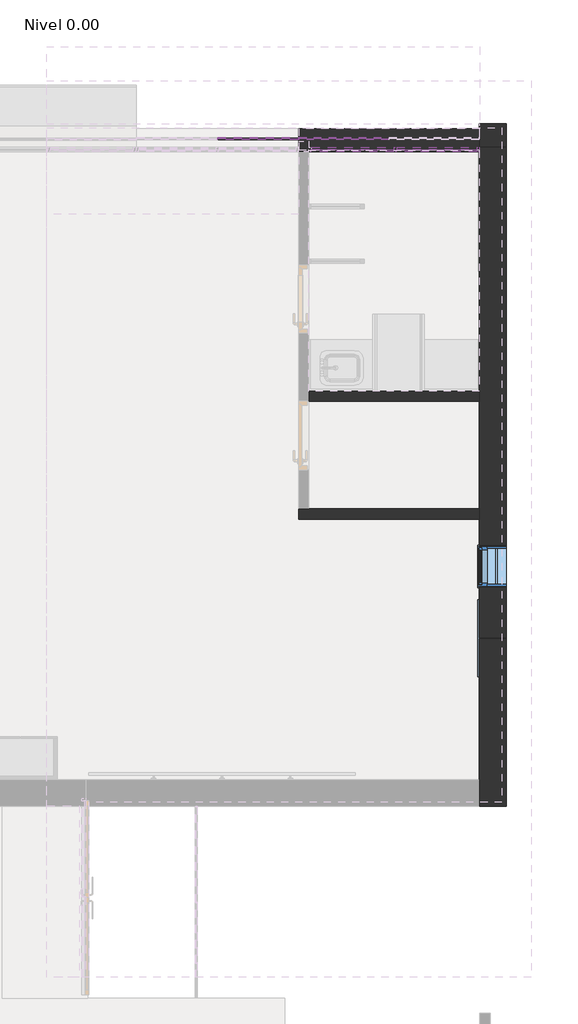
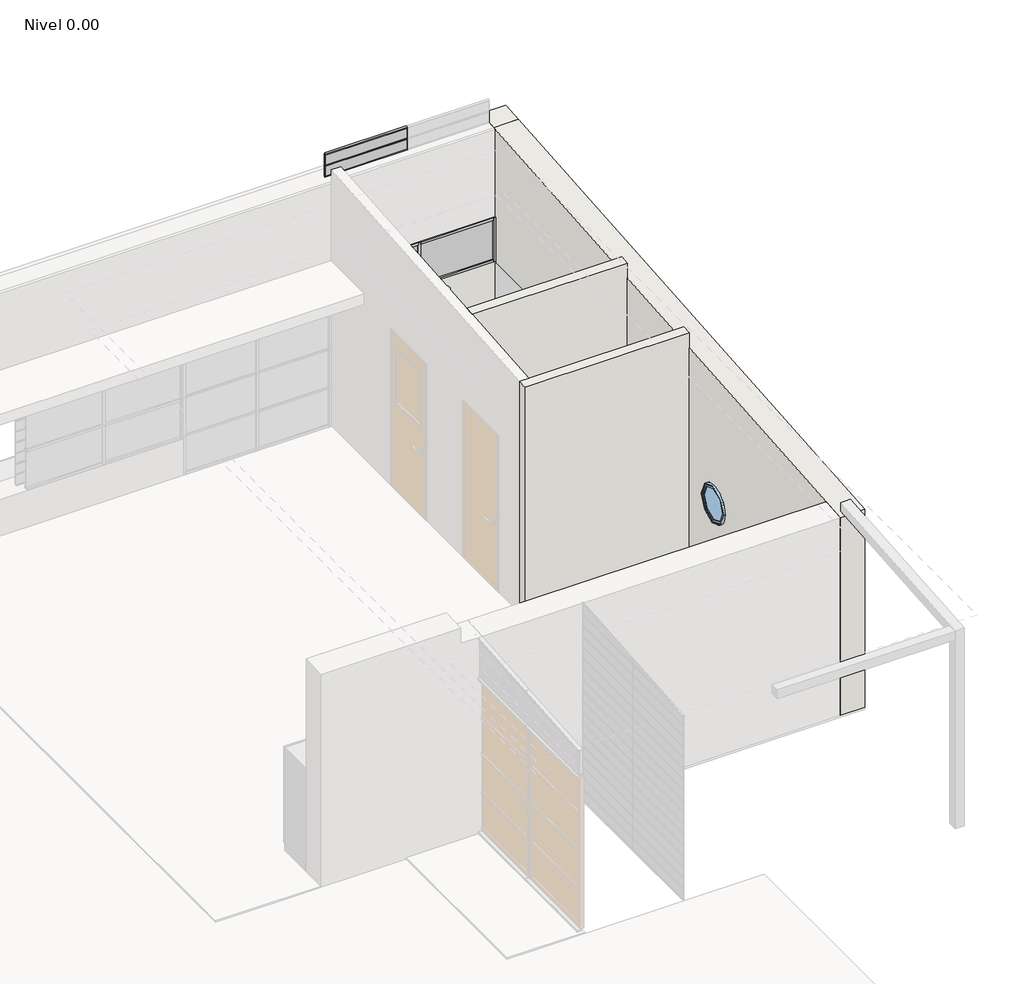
# One storey, part 25 of 27: 77 members, 37 plates, 5 walls, 2 windows.
"""IFC4 building model written with IfcOpenShell, lengths in millimetres."""

from ifc_helpers import new_model, si_unit, frame, origin, place, context, project, spatial, polyline, circle_curve, outline, extrude, faceted_brep, transform, mapped, element, save
from ifc_brep_helpers import plane_surface, revolved_surface, advanced_brep
from components import circular_mullion_a09c3154, circular_mullion_1ffed5d8, l_corner_mullion_0b7e8c85, l_corner_mullion_90f03896, l_corner_mullion_c65f2da1, rectangular_mullion_b27f267a, rectangular_mullion_f4ea7fa0, rectangular_mullion_4732226b, rectangular_mullion_bccfeea3, rectangular_mullion_38782a9a, rectangular_mullion_abfcaab6, system_panel_c5bd44f4, system_panel_2c501d8c, system_panel_d7da2c0c, system_panel_921cbf43, system_panel_f97c738b, system_panel_f5a5ada1, system_panel_glazed_9e0da50f, system_panel_glazed_0c34ed68, window_1ec73767, window_5c5b8207

model = new_model("IFC4")

# Units and contexts
model_context = context("Model", 3, world=origin())
ifc_project = project(units=[si_unit("LENGTHUNIT", "METRE", prefix="MILLI")], contexts=[model_context])

# Site, building, storey
site = spatial("IfcSite", under=ifc_project)
building = spatial("IfcBuilding", under=site)
storey = spatial("IfcBuildingStorey", under=building, Name="Nivel 0.00", Elevation=0.0)

# Members
placement = place(None, origin())
circular_mullion_shape = circular_mullion_a09c3154(model_context)
element("IfcMember", 1, ObjectType="Circular Mullion : ARQ_HERR_16mm", at=placement, inside=storey, context=model_context, shape_type="MappedRepresentation", body=[
    mapped(circular_mullion_shape, transform((15479.1953298, 6959.43912, 150.0), x_axis=(0.0, 0.0, 1.0), y_axis=(0.0, -1.0, 0.0), z_axis=(1.0, 0.0, 0.0))),
])
element("IfcMember", 2, ObjectType="Circular Mullion : ARQ_HERR_16mm", at=placement, inside=storey, context=model_context, shape_type="MappedRepresentation", body=[
    mapped(circular_mullion_shape, transform((15479.1953298, 6959.43912, 300.0), x_axis=(0.0, 0.0, 1.0), y_axis=(0.0, -1.0, 0.0), z_axis=(1.0, 0.0, 0.0))),
])
element("IfcMember", 3, ObjectType="Circular Mullion : ARQ_HERR_16mm", at=placement, inside=storey, context=model_context, shape_type="MappedRepresentation", body=[
    mapped(circular_mullion_shape, transform((15479.1953298, 6959.43912, 450.0), x_axis=(0.0, 0.0, 1.0), y_axis=(0.0, -1.0, 0.0), z_axis=(1.0, 0.0, 0.0))),
])
element("IfcMember", 4, ObjectType="Circular Mullion : ARQ_HERR_16mm", at=placement, inside=storey, context=model_context, shape_type="MappedRepresentation", body=[
    mapped(circular_mullion_shape, transform((15479.1953298, 6959.43912, 600.0), x_axis=(0.0, 0.0, 1.0), y_axis=(0.0, -1.0, 0.0), z_axis=(1.0, 0.0, 0.0))),
])
element("IfcMember", 5, ObjectType="Circular Mullion : ARQ_HERR_16mm", at=placement, inside=storey, context=model_context, shape_type="MappedRepresentation", body=[
    mapped(circular_mullion_shape, transform((15479.1953298, 6959.43912, 750.0), x_axis=(0.0, 0.0, 1.0), y_axis=(0.0, -1.0, 0.0), z_axis=(1.0, 0.0, 0.0))),
])
element("IfcMember", 6, ObjectType="Circular Mullion : ARQ_HERR_16mm", at=placement, inside=storey, context=model_context, shape_type="MappedRepresentation", body=[
    mapped(circular_mullion_shape, transform((15479.1953298, 6959.43912, 900.0), x_axis=(0.0, 0.0, 1.0), y_axis=(0.0, -1.0, 0.0), z_axis=(1.0, 0.0, 0.0))),
])
element("IfcMember", 7, ObjectType="Circular Mullion : ARQ_HERR_16mm", at=placement, inside=storey, context=model_context, shape_type="MappedRepresentation", body=[
    mapped(circular_mullion_shape, transform((15479.1953298, 6959.43912, 1050.0), x_axis=(0.0, 0.0, 1.0), y_axis=(0.0, -1.0, 0.0), z_axis=(1.0, 0.0, 0.0))),
])
element("IfcMember", 8, ObjectType="Circular Mullion : ARQ_HERR_16mm", at=placement, inside=storey, context=model_context, shape_type="MappedRepresentation", body=[
    mapped(circular_mullion_shape, transform((15479.1953298, 6959.43912, 1200.0), x_axis=(0.0, 0.0, 1.0), y_axis=(0.0, -1.0, 0.0), z_axis=(1.0, 0.0, 0.0))),
])
element("IfcMember", 9, ObjectType="Circular Mullion : ARQ_HERR_16mm", at=placement, inside=storey, context=model_context, shape_type="MappedRepresentation", body=[
    mapped(circular_mullion_shape, transform((15479.1953298, 6959.43912, 1350.0), x_axis=(0.0, 0.0, 1.0), y_axis=(0.0, -1.0, 0.0), z_axis=(1.0, 0.0, 0.0))),
])
element("IfcMember", 10, ObjectType="Circular Mullion : ARQ_HERR_16mm", at=placement, inside=storey, context=model_context, shape_type="MappedRepresentation", body=[
    mapped(circular_mullion_shape, transform((15479.1953298, 6959.43912, 1500.0), x_axis=(0.0, 0.0, 1.0), y_axis=(0.0, -1.0, 0.0), z_axis=(1.0, 0.0, 0.0))),
])
element("IfcMember", 11, ObjectType="Circular Mullion : ARQ_HERR_16mm", at=placement, inside=storey, context=model_context, shape_type="MappedRepresentation", body=[
    mapped(circular_mullion_shape, transform((15479.1953298, 6959.43912, 1650.0), x_axis=(0.0, 0.0, 1.0), y_axis=(0.0, -1.0, 0.0), z_axis=(1.0, 0.0, 0.0))),
])
element("IfcMember", 12, ObjectType="Circular Mullion : ARQ_HERR_16mm", at=placement, inside=storey, context=model_context, shape_type="MappedRepresentation", body=[
    mapped(circular_mullion_shape, transform((15479.1953298, 6959.43912, 1800.0), x_axis=(0.0, 0.0, 1.0), y_axis=(0.0, -1.0, 0.0), z_axis=(1.0, 0.0, 0.0))),
])
element("IfcMember", 13, ObjectType="Circular Mullion : ARQ_HERR_16mm", at=placement, inside=storey, context=model_context, shape_type="MappedRepresentation", body=[
    mapped(circular_mullion_shape, transform((15479.1953298, 6959.43912, 1950.0), x_axis=(0.0, 0.0, 1.0), y_axis=(0.0, -1.0, 0.0), z_axis=(1.0, 0.0, 0.0))),
])
circular_mullion_2_shape = circular_mullion_1ffed5d8(model_context)
element("IfcMember", 14, ObjectType="Circular Mullion : ARQ_HERR_16mm", at=placement, inside=storey, context=model_context, shape_type="MappedRepresentation", body=[
    mapped(circular_mullion_2_shape, transform((16541.4453113, 6959.43912, 1650.0), x_axis=(0.0, 0.0, 1.0), y_axis=(0.0, -1.0, 0.0), z_axis=(1.0, 0.0, 0.0))),
])
element("IfcMember", 15, ObjectType="Circular Mullion : ARQ_HERR_16mm", at=placement, inside=storey, context=model_context, shape_type="MappedRepresentation", body=[
    mapped(circular_mullion_2_shape, transform((16541.4453113, 6959.43912, 1800.0), x_axis=(0.0, 0.0, 1.0), y_axis=(0.0, -1.0, 0.0), z_axis=(1.0, 0.0, 0.0))),
])
element("IfcMember", 16, ObjectType="Circular Mullion : ARQ_HERR_16mm", at=placement, inside=storey, context=model_context, shape_type="MappedRepresentation", body=[
    mapped(circular_mullion_2_shape, transform((16541.4453113, 6959.43912, 1950.0), x_axis=(0.0, 0.0, 1.0), y_axis=(0.0, -1.0, 0.0), z_axis=(1.0, 0.0, 0.0))),
])
element("IfcMember", 17, ObjectType="Circular Mullion : ARQ_HERR_16mm", at=placement, inside=storey, context=model_context, shape_type="MappedRepresentation", body=[
    mapped(circular_mullion_2_shape, transform((16541.4453113, 6959.43912, 2100.0), x_axis=(0.0, 0.0, 1.0), y_axis=(0.0, -1.0, 0.0), z_axis=(1.0, 0.0, 0.0))),
])
element("IfcMember", 18, ObjectType="Circular Mullion : ARQ_HERR_16mm", at=placement, inside=storey, context=model_context, shape_type="MappedRepresentation", body=[
    mapped(circular_mullion_2_shape, transform((16541.4453113, 6959.43912, 2250.0), x_axis=(0.0, 0.0, 1.0), y_axis=(0.0, -1.0, 0.0), z_axis=(1.0, 0.0, 0.0))),
])
element("IfcMember", 19, ObjectType="Circular Mullion : ARQ_HERR_16mm", at=placement, inside=storey, context=model_context, shape_type="MappedRepresentation", body=[
    mapped(circular_mullion_2_shape, transform((16541.4453113, 6959.43912, 2400.0), x_axis=(0.0, 0.0, 1.0), y_axis=(0.0, -1.0, 0.0), z_axis=(1.0, 0.0, 0.0))),
])
element("IfcMember", 20, ObjectType="Circular Mullion : ARQ_HERR_16mm", at=placement, inside=storey, context=model_context, shape_type="MappedRepresentation", body=[
    mapped(circular_mullion_2_shape, transform((16541.4453113, 6959.43912, 2550.0), x_axis=(0.0, 0.0, 1.0), y_axis=(0.0, -1.0, 0.0), z_axis=(1.0, 0.0, 0.0))),
])
element("IfcMember", 21, ObjectType="Circular Mullion : ARQ_HERR_16mm", at=placement, inside=storey, context=model_context, shape_type="MappedRepresentation", body=[
    mapped(circular_mullion_2_shape, transform((16541.4453113, 6959.43912, 2700.0), x_axis=(0.0, 0.0, 1.0), y_axis=(0.0, -1.0, 0.0), z_axis=(1.0, 0.0, 0.0))),
])
element("IfcMember", 22, ObjectType="Circular Mullion : ARQ_HERR_16mm", at=placement, inside=storey, context=model_context, shape_type="MappedRepresentation", body=[
    mapped(circular_mullion_2_shape, transform((16541.4453113, 6959.43912, 2850.0), x_axis=(0.0, 0.0, 1.0), y_axis=(0.0, -1.0, 0.0), z_axis=(1.0, 0.0, 0.0))),
])
element("IfcMember", 23, ObjectType="Circular Mullion : ARQ_HERR_16mm", at=placement, inside=storey, context=model_context, shape_type="MappedRepresentation", body=[
    mapped(circular_mullion_2_shape, transform((16541.4453113, 6959.43912, 3000.0), x_axis=(0.0, 0.0, 1.0), y_axis=(0.0, -1.0, 0.0), z_axis=(1.0, 0.0, 0.0))),
])
element("IfcMember", 24, ObjectType="Circular Mullion : ARQ_HERR_16mm", at=placement, inside=storey, context=model_context, shape_type="MappedRepresentation", body=[
    mapped(circular_mullion_2_shape, transform((16541.4453113, 6959.43912, 3150.0), x_axis=(0.0, 0.0, 1.0), y_axis=(0.0, -1.0, 0.0), z_axis=(1.0, 0.0, 0.0))),
])
element("IfcMember", 25, ObjectType="Circular Mullion : ARQ_HERR_16mm", at=placement, inside=storey, context=model_context, shape_type="MappedRepresentation", body=[
    mapped(circular_mullion_2_shape, transform((16541.4453113, 6959.43912, 3300.0), x_axis=(0.0, 0.0, 1.0), y_axis=(0.0, -1.0, 0.0), z_axis=(1.0, 0.0, 0.0))),
])
element("IfcMember", 26, ObjectType="Circular Mullion : ARQ_HERR_16mm", at=placement, inside=storey, context=model_context, shape_type="MappedRepresentation", body=[
    mapped(circular_mullion_2_shape, transform((16541.4453113, 6959.43912, 3450.0), x_axis=(0.0, 0.0, 1.0), y_axis=(0.0, -1.0, 0.0), z_axis=(1.0, 0.0, 0.0))),
])
l_corner_mullion_shape = l_corner_mullion_0b7e8c85(model_context)
element("IfcMember", 27, ObjectType="L Corner Mullion : ARQ_HERR_15X6mm", at=placement, inside=storey, context=model_context, shape_type="MappedRepresentation", body=[
    mapped(l_corner_mullion_shape, transform((15479.1953298, 6959.43912, 2100.0), x_axis=(0.0, 0.0, 1.0), y_axis=(0.0, -1.0, 0.0), z_axis=(1.0, 0.0, 0.0))),
])
l_corner_mullion_2_shape = l_corner_mullion_90f03896(model_context)
element("IfcMember", 28, ObjectType="L Corner Mullion : ARQ_HERR_15X6mm", at=placement, inside=storey, context=model_context, shape_type="MappedRepresentation", body=[
    mapped(l_corner_mullion_2_shape, transform((16541.4453113, 6959.43912, 3600.0), x_axis=(0.0, 0.0, 1.0), y_axis=(0.0, -1.0, 0.0), z_axis=(1.0, 0.0, 0.0))),
])
element("IfcMember", 29, ObjectType="L Corner Mullion : ARQ_HERR_15X6mm", at=placement, inside=storey, context=model_context, shape_type="MappedRepresentation", body=[
    mapped(l_corner_mullion_2_shape, transform((15491.1953298, 6959.43912, 1500.0), x_axis=(0.0, 0.0, -1.0), y_axis=(0.0, -1.0, 0.0), z_axis=(-1.0, 0.0, 0.0))),
])
l_corner_mullion_3_shape = l_corner_mullion_c65f2da1(model_context)
element("IfcMember", 30, ObjectType="L Corner Mullion : ARQ_HERR_15X6mm", at=placement, inside=storey, context=model_context, shape_type="MappedRepresentation", body=[
    mapped(l_corner_mullion_3_shape, transform((16547.4453113, 6959.43912, 1500.0), x_axis=(0.0, 0.0, -1.0), y_axis=(0.0, -1.0, 0.0), z_axis=(-1.0, 0.0, 0.0))),
])
rectangular_mullion_shape = rectangular_mullion_b27f267a(model_context)
element("IfcMember", 31, ObjectType="Rectangular Mullion : ARQ_TV_MULL_50x30mm", at=placement, inside=storey, context=model_context, shape_type="MappedRepresentation", body=[
    mapped(rectangular_mullion_shape, transform((16616.4453113, 6834.4391195, 1500.0), x_axis=(1.0, 0.0, 0.0), y_axis=(0.0, -1.0, 0.0), z_axis=(0.0, 0.0, -1.0))),
])
rectangular_mullion_2_shape = rectangular_mullion_f4ea7fa0(model_context)
element("IfcMember", 32, ObjectType="Rectangular Mullion : ARQ_TV_MULL_50x30mm", at=placement, inside=storey, context=model_context, shape_type="MappedRepresentation", body=[
    mapped(rectangular_mullion_2_shape, transform((17597.6952928, 6834.4391195, 1500.0), x_axis=(1.0, 0.0, 0.0), y_axis=(0.0, -1.0, 0.0), z_axis=(0.0, 0.0, -1.0))),
])
rectangular_mullion_3_shape = rectangular_mullion_4732226b(model_context)
element("IfcMember", 33, ObjectType="Rectangular Mullion : ARQ_HERR_15X6mm", at=placement, inside=storey, context=model_context, shape_type="MappedRepresentation", body=[
    mapped(rectangular_mullion_3_shape, transform((16544.4453113, 6959.43912, 1500.0), x_axis=(1.0, 0.0, 0.0), y_axis=(0.0, -1.0, 0.0), z_axis=(0.0, 0.0, -1.0))),
])
element("IfcMember", 34, ObjectType="Rectangular Mullion : ARQ_HERR_15X6mm", at=placement, inside=storey, context=model_context, shape_type="MappedRepresentation", body=[
    mapped(rectangular_mullion_3_shape, transform((16544.4453113, 6959.43912, 1650.0), x_axis=(1.0, 0.0, 0.0), y_axis=(0.0, -1.0, 0.0), z_axis=(0.0, 0.0, -1.0))),
])
element("IfcMember", 35, ObjectType="Rectangular Mullion : ARQ_HERR_15X6mm", at=placement, inside=storey, context=model_context, shape_type="MappedRepresentation", body=[
    mapped(rectangular_mullion_3_shape, transform((16544.4453113, 6959.43912, 1800.0), x_axis=(1.0, 0.0, 0.0), y_axis=(0.0, -1.0, 0.0), z_axis=(0.0, 0.0, -1.0))),
])
element("IfcMember", 36, ObjectType="Rectangular Mullion : ARQ_HERR_15X6mm", at=placement, inside=storey, context=model_context, shape_type="MappedRepresentation", body=[
    mapped(rectangular_mullion_3_shape, transform((16544.4453113, 6959.43912, 1950.0), x_axis=(1.0, 0.0, 0.0), y_axis=(0.0, -1.0, 0.0), z_axis=(0.0, 0.0, -1.0))),
])
element("IfcMember", 37, ObjectType="Rectangular Mullion : ARQ_HERR_15X6mm", at=placement, inside=storey, context=model_context, shape_type="MappedRepresentation", body=[
    mapped(rectangular_mullion_3_shape, transform((16544.4453113, 6959.43912, 2100.0), x_axis=(1.0, 0.0, 0.0), y_axis=(0.0, -1.0, 0.0), z_axis=(0.0, 0.0, -1.0))),
])
element("IfcMember", 38, ObjectType="Rectangular Mullion : ARQ_HERR_15X6mm", at=placement, inside=storey, context=model_context, shape_type="MappedRepresentation", body=[
    mapped(rectangular_mullion_3_shape, transform((16544.4453113, 6959.43912, 2250.0), x_axis=(1.0, 0.0, 0.0), y_axis=(0.0, -1.0, 0.0), z_axis=(0.0, 0.0, -1.0))),
])
element("IfcMember", 39, ObjectType="Rectangular Mullion : ARQ_HERR_15X6mm", at=placement, inside=storey, context=model_context, shape_type="MappedRepresentation", body=[
    mapped(rectangular_mullion_3_shape, transform((16544.4453113, 6959.43912, 2400.0), x_axis=(1.0, 0.0, 0.0), y_axis=(0.0, -1.0, 0.0), z_axis=(0.0, 0.0, -1.0))),
])
element("IfcMember", 40, ObjectType="Rectangular Mullion : ARQ_HERR_15X6mm", at=placement, inside=storey, context=model_context, shape_type="MappedRepresentation", body=[
    mapped(rectangular_mullion_3_shape, transform((16544.4453113, 6959.43912, 2550.0), x_axis=(1.0, 0.0, 0.0), y_axis=(0.0, -1.0, 0.0), z_axis=(0.0, 0.0, -1.0))),
])
element("IfcMember", 41, ObjectType="Rectangular Mullion : ARQ_HERR_15X6mm", at=placement, inside=storey, context=model_context, shape_type="MappedRepresentation", body=[
    mapped(rectangular_mullion_3_shape, transform((16544.4453113, 6959.43912, 2700.0), x_axis=(1.0, 0.0, 0.0), y_axis=(0.0, -1.0, 0.0), z_axis=(0.0, 0.0, -1.0))),
])
element("IfcMember", 42, ObjectType="Rectangular Mullion : ARQ_HERR_15X6mm", at=placement, inside=storey, context=model_context, shape_type="MappedRepresentation", body=[
    mapped(rectangular_mullion_3_shape, transform((16544.4453113, 6959.43912, 2850.0), x_axis=(1.0, 0.0, 0.0), y_axis=(0.0, -1.0, 0.0), z_axis=(0.0, 0.0, -1.0))),
])
element("IfcMember", 43, ObjectType="Rectangular Mullion : ARQ_HERR_15X6mm", at=placement, inside=storey, context=model_context, shape_type="MappedRepresentation", body=[
    mapped(rectangular_mullion_3_shape, transform((16544.4453113, 6959.43912, 3000.0), x_axis=(1.0, 0.0, 0.0), y_axis=(0.0, -1.0, 0.0), z_axis=(0.0, 0.0, -1.0))),
])
element("IfcMember", 44, ObjectType="Rectangular Mullion : ARQ_HERR_15X6mm", at=placement, inside=storey, context=model_context, shape_type="MappedRepresentation", body=[
    mapped(rectangular_mullion_3_shape, transform((16544.4453113, 6959.43912, 3150.0), x_axis=(1.0, 0.0, 0.0), y_axis=(0.0, -1.0, 0.0), z_axis=(0.0, 0.0, -1.0))),
])
element("IfcMember", 45, ObjectType="Rectangular Mullion : ARQ_HERR_15X6mm", at=placement, inside=storey, context=model_context, shape_type="MappedRepresentation", body=[
    mapped(rectangular_mullion_3_shape, transform((16544.4453113, 6959.43912, 3300.0), x_axis=(1.0, 0.0, 0.0), y_axis=(0.0, -1.0, 0.0), z_axis=(0.0, 0.0, -1.0))),
])
rectangular_mullion_4_shape = rectangular_mullion_bccfeea3(model_context)
element("IfcMember", 46, ObjectType="Rectangular Mullion : ARQ_HERR_15X6mm", at=placement, inside=storey, context=model_context, shape_type="MappedRepresentation", body=[
    mapped(rectangular_mullion_4_shape, transform((15485.1953298, 6959.43912, 1650.0), x_axis=(-1.0, 0.0, 0.0), y_axis=(0.0, -1.0, 0.0), z_axis=(0.0, 0.0, 1.0))),
])
element("IfcMember", 47, ObjectType="Rectangular Mullion : ARQ_HERR_15X6mm", at=placement, inside=storey, context=model_context, shape_type="MappedRepresentation", body=[
    mapped(rectangular_mullion_4_shape, transform((15485.1953298, 6959.43912, 1800.0), x_axis=(-1.0, 0.0, 0.0), y_axis=(0.0, -1.0, 0.0), z_axis=(0.0, 0.0, 1.0))),
])
element("IfcMember", 48, ObjectType="Rectangular Mullion : ARQ_HERR_15X6mm", at=placement, inside=storey, context=model_context, shape_type="MappedRepresentation", body=[
    mapped(rectangular_mullion_4_shape, transform((15485.1953298, 6959.43912, 1950.0), x_axis=(-1.0, 0.0, 0.0), y_axis=(0.0, -1.0, 0.0), z_axis=(0.0, 0.0, 1.0))),
])
element("IfcMember", 49, ObjectType="Rectangular Mullion : ARQ_HERR_15X6mm", at=placement, inside=storey, context=model_context, shape_type="MappedRepresentation", body=[
    mapped(rectangular_mullion_4_shape, transform((15485.1953298, 6959.43912, 2100.0), x_axis=(-1.0, 0.0, 0.0), y_axis=(0.0, -1.0, 0.0), z_axis=(0.0, 0.0, 1.0))),
])
element("IfcMember", 50, ObjectType="Rectangular Mullion : ARQ_HERR_15X6mm", at=placement, inside=storey, context=model_context, shape_type="MappedRepresentation", body=[
    mapped(rectangular_mullion_4_shape, transform((15485.1953298, 6959.43912, 2250.0), x_axis=(-1.0, 0.0, 0.0), y_axis=(0.0, -1.0, 0.0), z_axis=(0.0, 0.0, 1.0))),
])
element("IfcMember", 51, ObjectType="Rectangular Mullion : ARQ_HERR_15X6mm", at=placement, inside=storey, context=model_context, shape_type="MappedRepresentation", body=[
    mapped(rectangular_mullion_4_shape, transform((15485.1953298, 6959.43912, 2400.0), x_axis=(-1.0, 0.0, 0.0), y_axis=(0.0, -1.0, 0.0), z_axis=(0.0, 0.0, 1.0))),
])
element("IfcMember", 52, ObjectType="Rectangular Mullion : ARQ_HERR_15X6mm", at=placement, inside=storey, context=model_context, shape_type="MappedRepresentation", body=[
    mapped(rectangular_mullion_4_shape, transform((15485.1953298, 6959.43912, 2550.0), x_axis=(-1.0, 0.0, 0.0), y_axis=(0.0, -1.0, 0.0), z_axis=(0.0, 0.0, 1.0))),
])
element("IfcMember", 53, ObjectType="Rectangular Mullion : ARQ_HERR_15X6mm", at=placement, inside=storey, context=model_context, shape_type="MappedRepresentation", body=[
    mapped(rectangular_mullion_4_shape, transform((15485.1953298, 6959.43912, 2700.0), x_axis=(-1.0, 0.0, 0.0), y_axis=(0.0, -1.0, 0.0), z_axis=(0.0, 0.0, 1.0))),
])
element("IfcMember", 54, ObjectType="Rectangular Mullion : ARQ_HERR_15X6mm", at=placement, inside=storey, context=model_context, shape_type="MappedRepresentation", body=[
    mapped(rectangular_mullion_4_shape, transform((15485.1953298, 6959.43912, 2850.0), x_axis=(-1.0, 0.0, 0.0), y_axis=(0.0, -1.0, 0.0), z_axis=(0.0, 0.0, 1.0))),
])
element("IfcMember", 55, ObjectType="Rectangular Mullion : ARQ_HERR_15X6mm", at=placement, inside=storey, context=model_context, shape_type="MappedRepresentation", body=[
    mapped(rectangular_mullion_4_shape, transform((15485.1953298, 6959.43912, 3000.0), x_axis=(-1.0, 0.0, 0.0), y_axis=(0.0, -1.0, 0.0), z_axis=(0.0, 0.0, 1.0))),
])
element("IfcMember", 56, ObjectType="Rectangular Mullion : ARQ_HERR_15X6mm", at=placement, inside=storey, context=model_context, shape_type="MappedRepresentation", body=[
    mapped(rectangular_mullion_4_shape, transform((15485.1953298, 6959.43912, 3150.0), x_axis=(-1.0, 0.0, 0.0), y_axis=(0.0, -1.0, 0.0), z_axis=(0.0, 0.0, 1.0))),
])
element("IfcMember", 57, ObjectType="Rectangular Mullion : ARQ_HERR_15X6mm", at=placement, inside=storey, context=model_context, shape_type="MappedRepresentation", body=[
    mapped(rectangular_mullion_4_shape, transform((15485.1953298, 6959.43912, 3300.0), x_axis=(-1.0, 0.0, 0.0), y_axis=(0.0, -1.0, 0.0), z_axis=(0.0, 0.0, 1.0))),
])
element("IfcMember", 58, ObjectType="Rectangular Mullion : ARQ_HERR_15X6mm", at=placement, inside=storey, context=model_context, shape_type="MappedRepresentation", body=[
    mapped(rectangular_mullion_4_shape, transform((15485.1953298, 6959.43912, 3450.0), x_axis=(-1.0, 0.0, 0.0), y_axis=(0.0, -1.0, 0.0), z_axis=(0.0, 0.0, 1.0))),
])
element("IfcMember", 59, ObjectType="Rectangular Mullion : ARQ_HERR_15X6mm", at=placement, inside=storey, context=model_context, shape_type="MappedRepresentation", body=[
    mapped(rectangular_mullion_3_shape, transform((16544.4453113, 6959.43912, 3450.0), x_axis=(1.0, 0.0, 0.0), y_axis=(0.0, -1.0, 0.0), z_axis=(0.0, 0.0, -1.0))),
])
element("IfcMember", 60, ObjectType="Rectangular Mullion : ARQ_HERR_15X6mm", at=placement, inside=storey, context=model_context, shape_type="MappedRepresentation", body=[
    mapped(rectangular_mullion_4_shape, transform((15485.1953298, 6959.43912, 3600.0), x_axis=(-1.0, 0.0, 0.0), y_axis=(0.0, -1.0, 0.0), z_axis=(0.0, 0.0, 1.0))),
])
element("IfcMember", 61, ObjectType="Rectangular Mullion : ARQ_HERR_15X6mm", at=placement, inside=storey, context=model_context, shape_type="MappedRepresentation", body=[
    mapped(rectangular_mullion_4_shape, transform((15485.1953298, 6959.43912, 0.0), x_axis=(1.0, 0.0, 0.0), y_axis=(0.0, -1.0, 0.0), z_axis=(0.0, 0.0, -1.0))),
])
element("IfcMember", 62, ObjectType="Rectangular Mullion : ARQ_HERR_15X6mm", at=placement, inside=storey, context=model_context, shape_type="MappedRepresentation", body=[
    mapped(rectangular_mullion_4_shape, transform((15485.1953298, 6959.43912, 150.0), x_axis=(1.0, 0.0, 0.0), y_axis=(0.0, -1.0, 0.0), z_axis=(0.0, 0.0, -1.0))),
])
element("IfcMember", 63, ObjectType="Rectangular Mullion : ARQ_HERR_15X6mm", at=placement, inside=storey, context=model_context, shape_type="MappedRepresentation", body=[
    mapped(rectangular_mullion_4_shape, transform((15485.1953298, 6959.43912, 300.0), x_axis=(1.0, 0.0, 0.0), y_axis=(0.0, -1.0, 0.0), z_axis=(0.0, 0.0, -1.0))),
])
element("IfcMember", 64, ObjectType="Rectangular Mullion : ARQ_HERR_15X6mm", at=placement, inside=storey, context=model_context, shape_type="MappedRepresentation", body=[
    mapped(rectangular_mullion_4_shape, transform((15485.1953298, 6959.43912, 450.0), x_axis=(1.0, 0.0, 0.0), y_axis=(0.0, -1.0, 0.0), z_axis=(0.0, 0.0, -1.0))),
])
element("IfcMember", 65, ObjectType="Rectangular Mullion : ARQ_HERR_15X6mm", at=placement, inside=storey, context=model_context, shape_type="MappedRepresentation", body=[
    mapped(rectangular_mullion_4_shape, transform((15485.1953298, 6959.43912, 600.0), x_axis=(1.0, 0.0, 0.0), y_axis=(0.0, -1.0, 0.0), z_axis=(0.0, 0.0, -1.0))),
])
element("IfcMember", 66, ObjectType="Rectangular Mullion : ARQ_HERR_15X6mm", at=placement, inside=storey, context=model_context, shape_type="MappedRepresentation", body=[
    mapped(rectangular_mullion_4_shape, transform((15485.1953298, 6959.43912, 750.0), x_axis=(1.0, 0.0, 0.0), y_axis=(0.0, -1.0, 0.0), z_axis=(0.0, 0.0, -1.0))),
])
element("IfcMember", 67, ObjectType="Rectangular Mullion : ARQ_HERR_15X6mm", at=placement, inside=storey, context=model_context, shape_type="MappedRepresentation", body=[
    mapped(rectangular_mullion_4_shape, transform((15485.1953298, 6959.43912, 900.0), x_axis=(1.0, 0.0, 0.0), y_axis=(0.0, -1.0, 0.0), z_axis=(0.0, 0.0, -1.0))),
])
element("IfcMember", 68, ObjectType="Rectangular Mullion : ARQ_HERR_15X6mm", at=placement, inside=storey, context=model_context, shape_type="MappedRepresentation", body=[
    mapped(rectangular_mullion_4_shape, transform((15485.1953298, 6959.43912, 1050.0), x_axis=(1.0, 0.0, 0.0), y_axis=(0.0, -1.0, 0.0), z_axis=(0.0, 0.0, -1.0))),
])
element("IfcMember", 69, ObjectType="Rectangular Mullion : ARQ_HERR_15X6mm", at=placement, inside=storey, context=model_context, shape_type="MappedRepresentation", body=[
    mapped(rectangular_mullion_4_shape, transform((15485.1953298, 6959.43912, 1200.0), x_axis=(1.0, 0.0, 0.0), y_axis=(0.0, -1.0, 0.0), z_axis=(0.0, 0.0, -1.0))),
])
element("IfcMember", 70, ObjectType="Rectangular Mullion : ARQ_HERR_15X6mm", at=placement, inside=storey, context=model_context, shape_type="MappedRepresentation", body=[
    mapped(rectangular_mullion_4_shape, transform((15485.1953298, 6959.43912, 1350.0), x_axis=(1.0, 0.0, 0.0), y_axis=(0.0, -1.0, 0.0), z_axis=(0.0, 0.0, -1.0))),
])
element("IfcMember", 71, ObjectType="Rectangular Mullion : ARQ_HERR_15X6mm", at=placement, inside=storey, context=model_context, shape_type="MappedRepresentation", body=[
    mapped(rectangular_mullion_4_shape, transform((15485.1953298, 6959.43912, 1500.0), x_axis=(1.0, 0.0, 0.0), y_axis=(0.0, -1.0, 0.0), z_axis=(0.0, 0.0, -1.0))),
])
element("IfcMember", 72, ObjectType="Rectangular Mullion : ARQ_HERR_15X6mm", at=placement, inside=storey, context=model_context, shape_type="MappedRepresentation", body=[
    mapped(rectangular_mullion_4_shape, transform((15485.1953298, 6959.43912, 1650.0), x_axis=(1.0, 0.0, 0.0), y_axis=(0.0, -1.0, 0.0), z_axis=(0.0, 0.0, -1.0))),
])
element("IfcMember", 73, ObjectType="Rectangular Mullion : ARQ_HERR_15X6mm", at=placement, inside=storey, context=model_context, shape_type="MappedRepresentation", body=[
    mapped(rectangular_mullion_4_shape, transform((15485.1953298, 6959.43912, 1800.0), x_axis=(1.0, 0.0, 0.0), y_axis=(0.0, -1.0, 0.0), z_axis=(0.0, 0.0, -1.0))),
])
element("IfcMember", 74, ObjectType="Rectangular Mullion : ARQ_HERR_15X6mm", at=placement, inside=storey, context=model_context, shape_type="MappedRepresentation", body=[
    mapped(rectangular_mullion_4_shape, transform((15485.1953298, 6959.43912, 1950.0), x_axis=(1.0, 0.0, 0.0), y_axis=(0.0, -1.0, 0.0), z_axis=(0.0, 0.0, -1.0))),
])
rectangular_mullion_5_shape = rectangular_mullion_38782a9a(model_context)
element("IfcMember", 75, ObjectType="Rectangular Mullion : ARQ_TV_MULL_50x30mm", at=placement, inside=storey, context=model_context, shape_type="MappedRepresentation", body=[
    mapped(rectangular_mullion_5_shape, transform((17567.6952928, 6834.4391195, 2100.0), x_axis=(0.0, 0.0, 1.0), y_axis=(0.0, -1.0, 0.0), z_axis=(1.0, 0.0, 0.0))),
])
rectangular_mullion_6_shape = rectangular_mullion_abfcaab6(model_context)
element("IfcMember", 76, ObjectType="Rectangular Mullion : ARQ_TV_MULL_50x30mm", at=placement, inside=storey, context=model_context, shape_type="MappedRepresentation", body=[
    mapped(rectangular_mullion_6_shape, transform((16601.4453113, 6834.4391195, 2100.0), x_axis=(0.0, 0.0, 1.0), y_axis=(0.0, -1.0, 0.0), z_axis=(1.0, 0.0, 0.0))),
])
element("IfcMember", 77, ObjectType="Rectangular Mullion : ARQ_TV_MULL_50x30mm", at=placement, inside=storey, context=model_context, shape_type="MappedRepresentation", body=[
    mapped(rectangular_mullion_5_shape, transform((16631.4453113, 6834.4391195, 1500.0), x_axis=(0.0, 0.0, -1.0), y_axis=(0.0, -1.0, 0.0), z_axis=(-1.0, 0.0, 0.0))),
])

# Plates
system_panel_shape = system_panel_c5bd44f4(model_context)
element("IfcPlate", 78, ObjectType="System Panel : VACÍO", at=placement, inside=storey, context=model_context, shape_type="MappedRepresentation", body=[
    mapped(system_panel_shape, transform((15008.5931564, 6959.43912, 6.0), x_axis=(1.0, 0.0, 0.0), y_axis=(0.0, 1.0, 0.0), z_axis=(0.0, 0.0, 1.0))),
])
element("IfcPlate", 79, ObjectType="System Panel : VACÍO", at=placement, inside=storey, context=model_context, shape_type="MappedRepresentation", body=[
    mapped(system_panel_shape, transform((15008.5931564, 6959.43912, 1958.0), x_axis=(1.0, 0.0, 0.0), y_axis=(0.0, 1.0, 0.0), z_axis=(0.0, 0.0, 1.0))),
])
system_panel_2_shape = system_panel_2c501d8c(model_context)
element("IfcPlate", 80, ObjectType="System Panel : VACÍO", at=placement, inside=storey, context=model_context, shape_type="MappedRepresentation", body=[
    mapped(system_panel_2_shape, transform((15008.5931564, 6959.43912, 158.0), x_axis=(1.0, 0.0, 0.0), y_axis=(0.0, 1.0, 0.0), z_axis=(0.0, 0.0, 1.0))),
])
element("IfcPlate", 81, ObjectType="System Panel : VACÍO", at=placement, inside=storey, context=model_context, shape_type="MappedRepresentation", body=[
    mapped(system_panel_2_shape, transform((15008.5931564, 6959.43912, 308.0), x_axis=(1.0, 0.0, 0.0), y_axis=(0.0, 1.0, 0.0), z_axis=(0.0, 0.0, 1.0))),
])
element("IfcPlate", 82, ObjectType="System Panel : VACÍO", at=placement, inside=storey, context=model_context, shape_type="MappedRepresentation", body=[
    mapped(system_panel_2_shape, transform((15008.5931564, 6959.43912, 458.0), x_axis=(1.0, 0.0, 0.0), y_axis=(0.0, 1.0, 0.0), z_axis=(0.0, 0.0, 1.0))),
])
element("IfcPlate", 83, ObjectType="System Panel : VACÍO", at=placement, inside=storey, context=model_context, shape_type="MappedRepresentation", body=[
    mapped(system_panel_2_shape, transform((15008.5931564, 6959.43912, 608.0), x_axis=(1.0, 0.0, 0.0), y_axis=(0.0, 1.0, 0.0), z_axis=(0.0, 0.0, 1.0))),
])
element("IfcPlate", 84, ObjectType="System Panel : VACÍO", at=placement, inside=storey, context=model_context, shape_type="MappedRepresentation", body=[
    mapped(system_panel_2_shape, transform((15008.5931564, 6959.43912, 758.0), x_axis=(1.0, 0.0, 0.0), y_axis=(0.0, 1.0, 0.0), z_axis=(0.0, 0.0, 1.0))),
])
element("IfcPlate", 85, ObjectType="System Panel : VACÍO", at=placement, inside=storey, context=model_context, shape_type="MappedRepresentation", body=[
    mapped(system_panel_2_shape, transform((15008.5931564, 6959.43912, 908.0), x_axis=(1.0, 0.0, 0.0), y_axis=(0.0, 1.0, 0.0), z_axis=(0.0, 0.0, 1.0))),
])
element("IfcPlate", 86, ObjectType="System Panel : VACÍO", at=placement, inside=storey, context=model_context, shape_type="MappedRepresentation", body=[
    mapped(system_panel_2_shape, transform((15008.5931564, 6959.43912, 1058.0), x_axis=(1.0, 0.0, 0.0), y_axis=(0.0, 1.0, 0.0), z_axis=(0.0, 0.0, 1.0))),
])
element("IfcPlate", 87, ObjectType="System Panel : VACÍO", at=placement, inside=storey, context=model_context, shape_type="MappedRepresentation", body=[
    mapped(system_panel_2_shape, transform((15008.5931564, 6959.43912, 1208.0), x_axis=(1.0, 0.0, 0.0), y_axis=(0.0, 1.0, 0.0), z_axis=(0.0, 0.0, 1.0))),
])
element("IfcPlate", 88, ObjectType="System Panel : VACÍO", at=placement, inside=storey, context=model_context, shape_type="MappedRepresentation", body=[
    mapped(system_panel_2_shape, transform((15008.5931564, 6959.43912, 1358.0), x_axis=(1.0, 0.0, 0.0), y_axis=(0.0, 1.0, 0.0), z_axis=(0.0, 0.0, 1.0))),
])
element("IfcPlate", 89, ObjectType="System Panel : VACÍO", at=placement, inside=storey, context=model_context, shape_type="MappedRepresentation", body=[
    mapped(system_panel_2_shape, transform((15008.5931564, 6959.43912, 1508.0), x_axis=(1.0, 0.0, 0.0), y_axis=(0.0, 1.0, 0.0), z_axis=(0.0, 0.0, 1.0))),
])
element("IfcPlate", 90, ObjectType="System Panel : VACÍO", at=placement, inside=storey, context=model_context, shape_type="MappedRepresentation", body=[
    mapped(system_panel_2_shape, transform((15008.5931564, 6959.43912, 1658.0), x_axis=(1.0, 0.0, 0.0), y_axis=(0.0, 1.0, 0.0), z_axis=(0.0, 0.0, 1.0))),
])
element("IfcPlate", 91, ObjectType="System Panel : VACÍO", at=placement, inside=storey, context=model_context, shape_type="MappedRepresentation", body=[
    mapped(system_panel_2_shape, transform((15008.5931564, 6959.43912, 1808.0), x_axis=(1.0, 0.0, 0.0), y_axis=(0.0, 1.0, 0.0), z_axis=(0.0, 0.0, 1.0))),
])
system_panel_3_shape = system_panel_d7da2c0c(model_context)
element("IfcPlate", 92, ObjectType="System Panel : VACÍO", at=placement, inside=storey, context=model_context, shape_type="MappedRepresentation", body=[
    mapped(system_panel_3_shape, transform((16016.3203205, 6959.43912, 1506.0), x_axis=(1.0, 0.0, 0.0), y_axis=(0.0, 1.0, 0.0), z_axis=(0.0, 0.0, 1.0))),
])
element("IfcPlate", 93, ObjectType="System Panel : VACÍO", at=placement, inside=storey, context=model_context, shape_type="MappedRepresentation", body=[
    mapped(system_panel_3_shape, transform((16016.3203205, 6959.43912, 3458.0), x_axis=(1.0, 0.0, 0.0), y_axis=(0.0, 1.0, 0.0), z_axis=(0.0, 0.0, 1.0))),
])
system_panel_4_shape = system_panel_921cbf43(model_context)
element("IfcPlate", 94, ObjectType="System Panel : VACÍO", at=placement, inside=storey, context=model_context, shape_type="MappedRepresentation", body=[
    mapped(system_panel_4_shape, transform((17069.570302, 6959.43912, 1506.0), x_axis=(1.0, 0.0, 0.0), y_axis=(0.0, 1.0, 0.0), z_axis=(0.0, 0.0, 1.0))),
])
system_panel_5_shape = system_panel_f97c738b(model_context)
element("IfcPlate", 95, ObjectType="System Panel : VACÍO", at=placement, inside=storey, context=model_context, shape_type="MappedRepresentation", body=[
    mapped(system_panel_5_shape, transform((16016.3203205, 6959.43912, 1658.0), x_axis=(1.0, 0.0, 0.0), y_axis=(0.0, 1.0, 0.0), z_axis=(0.0, 0.0, 1.0))),
])
element("IfcPlate", 96, ObjectType="System Panel : VACÍO", at=placement, inside=storey, context=model_context, shape_type="MappedRepresentation", body=[
    mapped(system_panel_5_shape, transform((16016.3203205, 6959.43912, 1808.0), x_axis=(1.0, 0.0, 0.0), y_axis=(0.0, 1.0, 0.0), z_axis=(0.0, 0.0, 1.0))),
])
element("IfcPlate", 97, ObjectType="System Panel : VACÍO", at=placement, inside=storey, context=model_context, shape_type="MappedRepresentation", body=[
    mapped(system_panel_5_shape, transform((16016.3203205, 6959.43912, 1958.0), x_axis=(1.0, 0.0, 0.0), y_axis=(0.0, 1.0, 0.0), z_axis=(0.0, 0.0, 1.0))),
])
element("IfcPlate", 98, ObjectType="System Panel : VACÍO", at=placement, inside=storey, context=model_context, shape_type="MappedRepresentation", body=[
    mapped(system_panel_5_shape, transform((16016.3203205, 6959.43912, 2108.0), x_axis=(1.0, 0.0, 0.0), y_axis=(0.0, 1.0, 0.0), z_axis=(0.0, 0.0, 1.0))),
])
element("IfcPlate", 99, ObjectType="System Panel : VACÍO", at=placement, inside=storey, context=model_context, shape_type="MappedRepresentation", body=[
    mapped(system_panel_5_shape, transform((16016.3203205, 6959.43912, 2258.0), x_axis=(1.0, 0.0, 0.0), y_axis=(0.0, 1.0, 0.0), z_axis=(0.0, 0.0, 1.0))),
])
element("IfcPlate", 100, ObjectType="System Panel : VACÍO", at=placement, inside=storey, context=model_context, shape_type="MappedRepresentation", body=[
    mapped(system_panel_5_shape, transform((16016.3203205, 6959.43912, 2408.0), x_axis=(1.0, 0.0, 0.0), y_axis=(0.0, 1.0, 0.0), z_axis=(0.0, 0.0, 1.0))),
])
element("IfcPlate", 101, ObjectType="System Panel : VACÍO", at=placement, inside=storey, context=model_context, shape_type="MappedRepresentation", body=[
    mapped(system_panel_5_shape, transform((16016.3203205, 6959.43912, 2558.0), x_axis=(1.0, 0.0, 0.0), y_axis=(0.0, 1.0, 0.0), z_axis=(0.0, 0.0, 1.0))),
])
element("IfcPlate", 102, ObjectType="System Panel : VACÍO", at=placement, inside=storey, context=model_context, shape_type="MappedRepresentation", body=[
    mapped(system_panel_5_shape, transform((16016.3203205, 6959.43912, 2708.0), x_axis=(1.0, 0.0, 0.0), y_axis=(0.0, 1.0, 0.0), z_axis=(0.0, 0.0, 1.0))),
])
element("IfcPlate", 103, ObjectType="System Panel : VACÍO", at=placement, inside=storey, context=model_context, shape_type="MappedRepresentation", body=[
    mapped(system_panel_5_shape, transform((16016.3203205, 6959.43912, 2858.0), x_axis=(1.0, 0.0, 0.0), y_axis=(0.0, 1.0, 0.0), z_axis=(0.0, 0.0, 1.0))),
])
element("IfcPlate", 104, ObjectType="System Panel : VACÍO", at=placement, inside=storey, context=model_context, shape_type="MappedRepresentation", body=[
    mapped(system_panel_5_shape, transform((16016.3203205, 6959.43912, 3008.0), x_axis=(1.0, 0.0, 0.0), y_axis=(0.0, 1.0, 0.0), z_axis=(0.0, 0.0, 1.0))),
])
element("IfcPlate", 105, ObjectType="System Panel : VACÍO", at=placement, inside=storey, context=model_context, shape_type="MappedRepresentation", body=[
    mapped(system_panel_5_shape, transform((16016.3203205, 6959.43912, 3158.0), x_axis=(1.0, 0.0, 0.0), y_axis=(0.0, 1.0, 0.0), z_axis=(0.0, 0.0, 1.0))),
])
element("IfcPlate", 106, ObjectType="System Panel : VACÍO", at=placement, inside=storey, context=model_context, shape_type="MappedRepresentation", body=[
    mapped(system_panel_5_shape, transform((16016.3203205, 6959.43912, 3308.0), x_axis=(1.0, 0.0, 0.0), y_axis=(0.0, 1.0, 0.0), z_axis=(0.0, 0.0, 1.0))),
])
system_panel_6_shape = system_panel_f5a5ada1(model_context)
element("IfcPlate", 107, ObjectType="System Panel : VACÍO", at=placement, inside=storey, context=model_context, shape_type="MappedRepresentation", body=[
    mapped(system_panel_6_shape, transform((17069.570302, 6959.43912, 1658.0), x_axis=(1.0, 0.0, 0.0), y_axis=(0.0, 1.0, 0.0), z_axis=(0.0, 0.0, 1.0))),
])
element("IfcPlate", 108, ObjectType="System Panel : VACÍO", at=placement, inside=storey, context=model_context, shape_type="MappedRepresentation", body=[
    mapped(system_panel_6_shape, transform((17069.570302, 6959.43912, 1808.0), x_axis=(1.0, 0.0, 0.0), y_axis=(0.0, 1.0, 0.0), z_axis=(0.0, 0.0, 1.0))),
])
element("IfcPlate", 109, ObjectType="System Panel : VACÍO", at=placement, inside=storey, context=model_context, shape_type="MappedRepresentation", body=[
    mapped(system_panel_6_shape, transform((17069.570302, 6959.43912, 1958.0), x_axis=(1.0, 0.0, 0.0), y_axis=(0.0, 1.0, 0.0), z_axis=(0.0, 0.0, 1.0))),
])
element("IfcPlate", 110, ObjectType="System Panel : VACÍO", at=placement, inside=storey, context=model_context, shape_type="MappedRepresentation", body=[
    mapped(system_panel_6_shape, transform((17069.570302, 6959.43912, 2108.0), x_axis=(1.0, 0.0, 0.0), y_axis=(0.0, 1.0, 0.0), z_axis=(0.0, 0.0, 1.0))),
])
element("IfcPlate", 111, ObjectType="System Panel : VACÍO", at=placement, inside=storey, context=model_context, shape_type="MappedRepresentation", body=[
    mapped(system_panel_6_shape, transform((17069.570302, 6959.43912, 2258.0), x_axis=(1.0, 0.0, 0.0), y_axis=(0.0, 1.0, 0.0), z_axis=(0.0, 0.0, 1.0))),
])
element("IfcPlate", 112, ObjectType="System Panel : VACÍO", at=placement, inside=storey, context=model_context, shape_type="MappedRepresentation", body=[
    mapped(system_panel_6_shape, transform((17069.570302, 6959.43912, 2408.0), x_axis=(1.0, 0.0, 0.0), y_axis=(0.0, 1.0, 0.0), z_axis=(0.0, 0.0, 1.0))),
])
system_panel_glazed_shape = system_panel_glazed_9e0da50f(model_context)
element("IfcPlate", 113, ObjectType="System Panel : Glazed", at=placement, inside=storey, context=model_context, shape_type="MappedRepresentation", body=[
    mapped(system_panel_glazed_shape, transform((16118.3203205, 6834.4391195, 1530.0), x_axis=(1.0, 0.0, 0.0), y_axis=(0.0, 1.0, 0.0), z_axis=(0.0, 0.0, 1.0))),
])
system_panel_glazed_2_shape = system_panel_glazed_0c34ed68(model_context)
element("IfcPlate", 114, ObjectType="System Panel : Glazed", at=placement, inside=storey, context=model_context, shape_type="MappedRepresentation", body=[
    mapped(system_panel_glazed_2_shape, transform((17099.570302, 6834.4391195, 1530.0), x_axis=(1.0, 0.0, 0.0), y_axis=(0.0, 1.0, 0.0), z_axis=(0.0, 0.0, 1.0))),
])

# Walls
element("IfcWall", 115, ObjectType="ARQ_MUR_M01A_AZUL_270mm", at=placement, inside=storey, context=model_context, shape_type="SweptSolid", body=[
    extrude(outline(polyline([(17597.6952928, 6809.4391195), (15485.1953298, 6809.4391195), (15485.1953298, 7079.4391195), (17597.6952928, 7079.4391195), (17597.6952928, 6809.4391195)])), frame((0.0, 0.0, -50.0), z_axis=(0.0, 0.0, 1.0), x_axis=(1.0, 0.0, 0.0)), (0.0, 0.0, 1.0), 1550.0),
])
element("IfcWall", 116, ObjectType="ARQ_MUR_M01B_315mm", at=placement, inside=storey, context=model_context, shape_type="SweptSolid", body=[
    extrude(outline(polyline([(6859.3764155, -20.0), (6859.3764155, 3286.5533383), (7139.4390418, 3309.1000126), (7139.4390418, -20.0), (6859.3764155, -20.0)])), frame((17597.6952928, 0.0, 0.0), z_axis=(1.0, 0.0, 0.0), x_axis=(0.0, 1.0, 0.0)), (0.0, 0.0, 1.0), 315.0),
])
element("IfcWall", 117, ObjectType="ARQ_MUR_M01_315mm", at=placement, inside=storey, context=model_context, shape_type="AdvancedBrep", body=[
    advanced_brep(
    [(17912.6952928, -848.1235845, -20.0), (17912.6952928, 6859.3764155, -20.0), (17912.6952928, 6859.3764155, 3286.5533383), (17912.6952928, -848.1235845, 2666.0546497), (17912.6952928, 2209.4283687, 1150.0), (17912.6952928, 1709.4283687, 1150.0), (17912.6952928, 1569.4283687, 750.0), (17912.6952928, 669.4283687, 750.0), (17597.6952928, -848.1235845, -20.0), (17597.6952928, -848.1235845, 2666.0546497), (17597.6952928, -533.1235845, 2691.4139863), (17597.6952928, 6859.3764155, 3286.5533383), (17597.6952928, 6859.3764155, -20.0), (17597.6952928, 4009.0718892, -20.0), (17597.6952928, 3889.0718892, -20.0), (17597.6952928, 2631.9283687, -20.0), (17597.6952928, 2511.9283687, -20.0), (17597.6952928, -533.1235845, -20.0), (17597.6952928, 2209.4283687, 1150.0), (17597.6952928, 1709.4283687, 1150.0), (17597.6952928, 1569.4283687, 750.0), (17597.6952928, 669.4283687, 750.0)],
    [
        (0, 1),
        (1, 2),
        (2, 3),
        (3, 0),
        (4, 5, circle_curve(frame((17912.6952928, 1959.4283687, 1150.0), z_axis=(-1.0, 0.0, 0.0), x_axis=(0.0, -1.0, 0.0)), 250.0)),
        (5, 4, circle_curve(frame((17912.6952928, 1959.4283687, 1150.0), z_axis=(-1.0, 0.0, 0.0), x_axis=(0.0, -1.0, 0.0)), 250.0)),
        (6, 7, circle_curve(frame((17912.6952928, 1119.4283687, 750.0), z_axis=(-1.0, 0.0, 0.0), x_axis=(0.0, -1.0, 0.0)), 450.0)),
        (7, 6, circle_curve(frame((17912.6952928, 1119.4283687, 750.0), z_axis=(-1.0, 0.0, 0.0), x_axis=(0.0, -1.0, 0.0)), 450.0)),
        (8, 9),
        (9, 10),
        (10, 11),
        (11, 12),
        (12, 13),
        (13, 14),
        (14, 15),
        (15, 16),
        (16, 17),
        (17, 8),
        (18, 19, circle_curve(frame((17597.6952928, 1959.4283687, 1150.0), z_axis=(1.0, 0.0, 0.0), x_axis=(0.0, -1.0, 0.0)), 250.0)),
        (19, 18, circle_curve(frame((17597.6952928, 1959.4283687, 1150.0), z_axis=(1.0, 0.0, 0.0), x_axis=(0.0, -1.0, 0.0)), 250.0)),
        (20, 21, circle_curve(frame((17597.6952928, 1119.4283687, 750.0), z_axis=(1.0, 0.0, 0.0), x_axis=(0.0, -1.0, 0.0)), 450.0)),
        (21, 20, circle_curve(frame((17597.6952928, 1119.4283687, 750.0), z_axis=(1.0, 0.0, 0.0), x_axis=(0.0, -1.0, 0.0)), 450.0)),
        (0, 8),
        (12, 1),
        (11, 2),
        (4, 18),
        (19, 5),
        (6, 20),
        (21, 7),
        (3, 9),
    ],
    [
        plane_surface(frame((17912.6952928, -690.6235845, -20.0), z_axis=(1.0, 0.0, 0.0), x_axis=(0.0, 1.0, 0.0))),
        plane_surface(frame((17597.6952928, -690.6235845, -20.0), z_axis=(-1.0, 0.0, 0.0), x_axis=(0.0, -1.0, 0.0))),
        plane_surface(frame((17912.6952928, -690.6235845, -20.0), z_axis=(0.0, 0.0, -1.0), x_axis=(-1.0, 0.0, 0.0))),
        plane_surface(frame((17912.6952928, 6859.3764155, -20.0), z_axis=(0.0, 1.0, 0.0), x_axis=(-1.0, 0.0, 0.0))),
        revolved_surface(polyline([(17597.6952928, 1709.4283687, 1150.0), (17912.6952928, 1709.4283687, 1150.0)]), (17912.6952928, 1959.4283687, 1150.0), (-1.0, 0.0, 0.0)),
        revolved_surface(polyline([(17597.6952928, 669.4283687, 750.0), (17912.6952928, 669.4283687, 750.0)]), (17912.6952928, 1119.4283687, 750.0), (-1.0, 0.0, 0.0)),
        plane_surface(frame((12998.3180123, -848.1235845, -20.0), z_axis=(0.0, -1.0, 0.0), x_axis=(1.0, 0.0, 0.0))),
        plane_surface(frame((-8594.890446, -7374.4790212, 2140.6449852), z_axis=(0.0, -0.08024620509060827, 0.9967750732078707), x_axis=(0.0, -0.9967750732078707, -0.08024620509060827))),
    ],
    [
        (0, [[1, 2, 3, 4], [5, 6], [7, 8]]),
        (1, [[9, 10, 11, 12, 13, 14, 15, 16, 17, 18], [19, 20], [21, 22]]),
        (2, [[-1, 23, -18, -17, -16, -15, -14, -13, 24]]),
        (3, [[-2, -24, -12, 25]]),
        (4, [[-5, 26, -20, 27]]),
        (4, [[-6, -27, -19, -26]]),
        (5, [[-7, 28, -22, 29]]),
        (5, [[-8, -29, -21, -28]]),
        (6, [[-4, 30, -9, -23]]),
        (7, [[-3, -25, -11, -10, -30]]),
    ],
),
])
element("IfcWall", 118, ObjectType="ARQ_TAB_T02_120mm", at=placement, inside=storey, context=model_context, shape_type="Brep", body=[
    faceted_brep([(17597.6952928, 2631.9283687, -20.0), (15605.1953298, 2631.9283687, -20.0), (15485.1953298, 2631.9283687, -20.0), (15485.1953298, 2631.9283687, 3146.8661945), (15605.1953298, 2631.9283687, 3146.8661945), (17597.6952928, 2631.9283687, 3146.8661945), (17597.6952928, 2511.9283687, -20.0), (17597.6952928, 2511.9283687, 3137.2054949), (15485.1953298, 2511.9283687, 3137.2054949), (15485.1953298, 2511.9283687, -20.0)], [[[0, 1, 2, 3, 4, 5]], [[6, 7, 8, 9]], [[2, 1, 0, 6, 9]], [[0, 5, 7, 6]], [[3, 2, 9, 8]], [[5, 4, 3, 8, 7]]]),
])
element("IfcWall", 119, ObjectType="ARQ_TAB_T02_120mm", at=placement, inside=storey, context=model_context, shape_type="Brep", body=[
    faceted_brep([(15605.1953298, 3889.0718892, -20.0), (17597.6952928, 3889.0718892, -20.0), (17597.6952928, 3889.0718892, 3248.0735777), (15605.1953298, 3889.0718892, 3248.0735777), (15605.1953298, 3889.0718892, 2130.0), (15605.1953298, 3889.0718892, 0.0), (15605.1953298, 4009.0718892, -20.0), (15605.1953298, 4009.0718892, 3257.7342774), (17597.6952928, 4009.0718892, 3257.7342774), (17597.6952928, 4009.0718892, -20.0)], [[[0, 1, 2, 3, 4, 5]], [[6, 7, 8, 9]], [[1, 0, 6, 9]], [[2, 1, 9, 8]], [[0, 5, 4, 3, 7, 6]], [[3, 2, 8, 7]]]),
])

# Windows
window_shape = window_1ec73767(model_context)
element("IfcWindow", 120, ObjectType="VENTANA_CAÑO_900 : CAÑO_900mm", at=placement, inside=storey, context=model_context, shape_type="MappedRepresentation", body=[
    mapped(window_shape, transform((17755.1952928, 1119.4283687, -600.0), x_axis=(0.0, -1.0, 0.0), y_axis=(1.0, 0.0, 0.0), z_axis=(0.0, 0.0, 1.0))),
])
window_2_shape = window_5c5b8207(model_context)
element("IfcWindow", 121, ObjectType="VENTANA_CAÑO_500 : CAÑO_500mm", at=placement, inside=storey, context=model_context, shape_type="MappedRepresentation", body=[
    mapped(window_2_shape, transform((17755.1952928, 1959.4283687, -300.0), x_axis=(0.0, -1.0, 0.0), y_axis=(1.0, 0.0, 0.0), z_axis=(0.0, 0.0, 1.0))),
])

save(model, "model.ifc")
